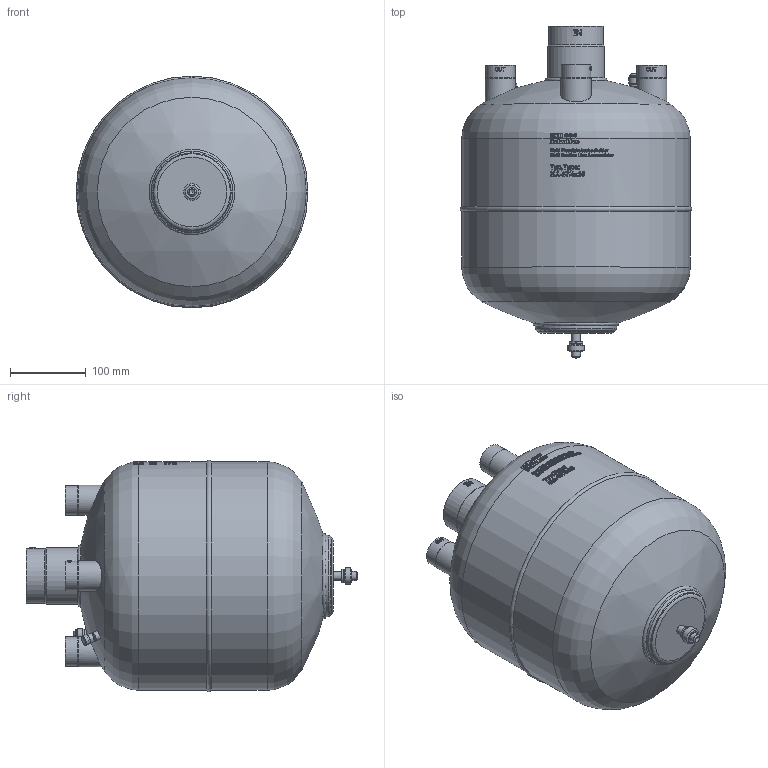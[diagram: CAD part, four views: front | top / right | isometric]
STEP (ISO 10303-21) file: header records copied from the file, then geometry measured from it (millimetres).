
FILE_DESCRIPTION(/* description */ (''),/* implementation_level */ '2;1');
FILE_NAME(/* name */ 'P:\MA\MA-67_4x35\MA-67_4x35.stp',/* time_stamp */ '2017-10-05T08:39:51+02:00',/* author */ ('neufeld'),/* organization */ (''),/* preprocessor_version */ 'ST-DEVELOPER v16.1',/* originating_system */ 'Autodesk Inventor 2016',/* authorisation */ '');
FILE_SCHEMA (('AUTOMOTIVE_DESIGN { 1 0 10303 214 3 1 1 }'));
Length unit declared in the file: millimetre
Products named in the file (2): MA-67_4x35; MA-67_4x35_1
Assembly tree (1 placements, depth 2):
  MA-67_4x35_1
    MA-67_4x35
Bounding box: 306.39 x 438.86 x 306.39 mm (x, y, z)
Volume: 20215564 mm3; surface area: 431911.9 mm2
Topology: 2 solids, 5 shells, 1616 faces, 4325 edges, 2877 vertices
Faces by surface type: plane 863, bspline 536, cylinder 173, cone 20, torus 16, sphere 8
Full cylindrical faces by diameter (mm): 3.7 x1, 4 x1, 4.64 x1, 5.4 x1, 7.2 x1, 8.9 x2, 9.8 x1, 10 x1, 12 x3, 12.3 x1, 12.7 x1, 12.9 x1, 13.5 x1, 15.7 x1, 16 x1, 16.2 x1, 21.939 x1, 35.2 x4, 39 x4, 40 x4, 40.3 x4, 67.3 x1, 72.5 x1, 75.4 x1, 107.5 x1, 302 x2
Entity records: 62177 total; most frequent: CARTESIAN_POINT 25788, ORIENTED_EDGE 8470, DIRECTION 5774, EDGE_CURVE 4235, VERTEX_POINT 2859, AXIS2_PLACEMENT_3D 1939, LINE 1896, VECTOR 1896
